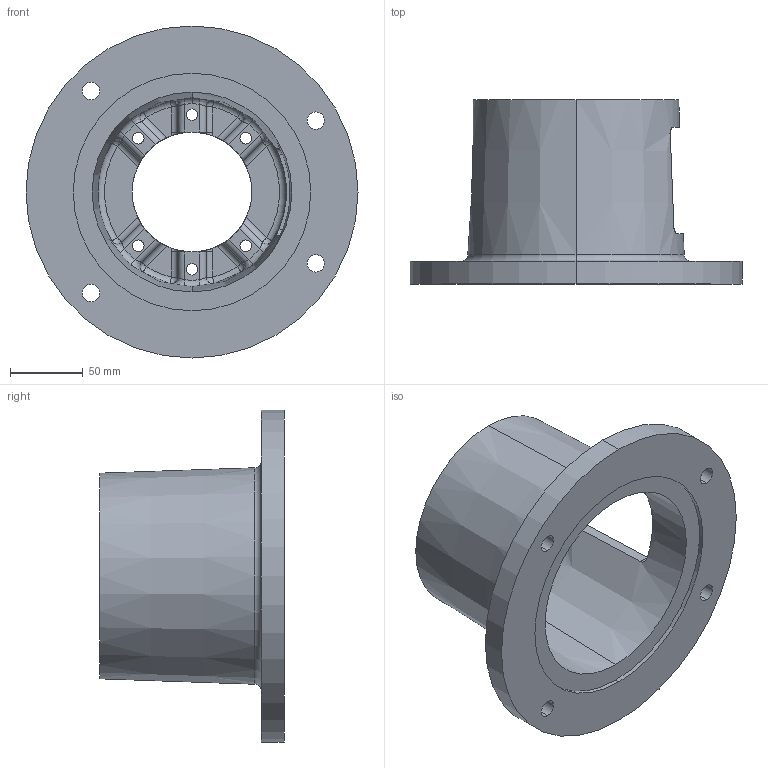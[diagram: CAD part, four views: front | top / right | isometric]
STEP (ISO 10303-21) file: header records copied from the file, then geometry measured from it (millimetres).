
FILE_DESCRIPTION (( 'STEP AP203' ), '1' );
FILE_NAME ('E644502A.STEP', '2014-11-03T17:07:57', ( '' ), ( '' ), 'SwSTEP 2.0', 'SolidWorks 2014', '' );
FILE_SCHEMA (( 'CONFIG_CONTROL_DESIGN' ));
Length unit declared in the file: inch
Products named in the file (1): E644502A
Bounding box: 228.6 x 127 x 228.6 mm (x, y, z)
Volume: 750650.1 mm3; surface area: 179617.1 mm2
Topology: 1 solids, 1 shells, 153 faces, 388 edges, 227 vertices
Faces by surface type: cylinder 58, plane 32, bspline 24, torus 23, sphere 12, cone 4
Entity records: 6533 total; most frequent: CARTESIAN_POINT 2915, ORIENTED_EDGE 752, DIRECTION 742, EDGE_CURVE 376, AXIS2_PLACEMENT_3D 320, VERTEX_POINT 227, CIRCLE 190, EDGE_LOOP 179
